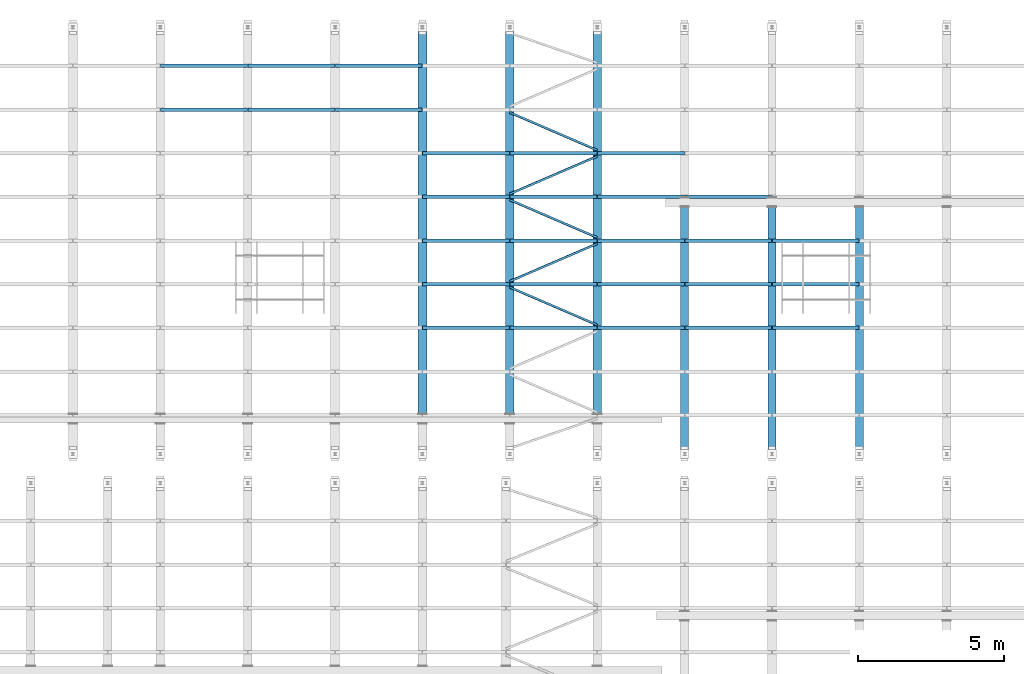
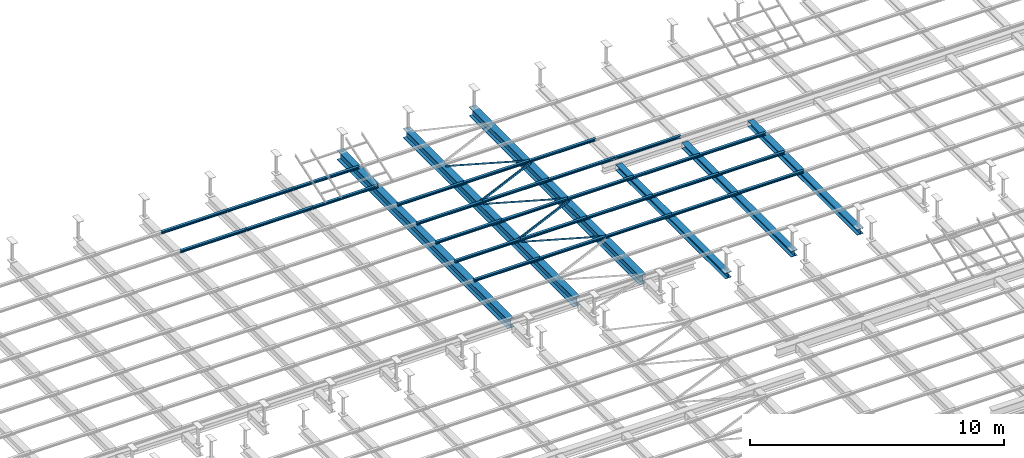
# One storey, part 80 of 139: 39 beams.
"""IFC2X3 building model written with IfcOpenShell, lengths in metres."""

import ifcopenshell
import ifcopenshell.guid

model = None  # the IFC model being written
_history = None  # IfcOwnerHistory: only IFC2X3 demands one
_inside = {}  # id of a spatial element -> (the spatial element, [elements in it])
_under = {}  # id of a project, library or spatial element -> (it, [spatial elements below it])
_declared = {}  # id of a project -> (the project, [libraries it declares])
_typed = {}  # id of a type object -> (the type object, [elements of that type])
_made_of = {}  # id of a material, layer set ... -> (it, [elements and type objects made of it])


def new_model(schema):
    """Start an empty IFC model of exactly this schema.

    Asked for "IFC4X3", IfcOpenShell would pick the latest addendum, in which some entities
    have other attributes; the version numbers below select the first issue.
    IFC2X3 requires an IfcOwnerHistory on every rooted entity: one is made here for all.
    """
    global model, _history
    if schema == "IFC4X3":
        model = ifcopenshell.file(schema_version=(4, 3, 0, 0))
    else:
        model = ifcopenshell.file(schema=schema)
    _inside.clear()
    _under.clear()
    _declared.clear()
    _typed.clear()
    _made_of.clear()
    _history = None
    if model.schema == "IFC2X3":
        org = make("IfcOrganization", Name="unknown")
        user = make(
            "IfcPersonAndOrganization",
            ThePerson=make("IfcPerson", FamilyName="unknown"),
            TheOrganization=org,
        )
        app = make(
            "IfcApplication",
            ApplicationDeveloper=org,
            Version="unknown",
            ApplicationFullName="unknown",
            ApplicationIdentifier="unknown",
        )
        _history = make(
            "IfcOwnerHistory",
            OwningUser=user,
            OwningApplication=app,
            ChangeAction="ADDED",
            CreationDate=0,
        )
    return model


def make(cls, **values):
    """One entity of the class cls with the attributes given. An attribute that is None is left unset."""
    return model.create_entity(
        cls, **{name: value for name, value in values.items() if value is not None}
    )


def entity(cls, *values):
    """Any entity or typed value of the class cls, its attributes in the order of the schema. None: left unset."""
    e = model.create_entity(cls)
    for i, value in enumerate(values):
        if value is not None:
            e[i] = value
    return e


def rooted(cls, **values):
    """An entity with a GlobalId (a new one), such as an element, a storey or a relation."""
    return make(cls, GlobalId=ifcopenshell.guid.new(), OwnerHistory=_history, **values)


def si_unit(unit_type, name, prefix=None):
    """IfcSIUnit, for example si_unit("LENGTHUNIT", "METRE", prefix="MILLI")."""
    return make("IfcSIUnit", UnitType=unit_type, Prefix=prefix, Name=name)


def converted_unit(unit_type, name, factor, base, dimensions=None, offset=None):
    """IfcConversionBasedUnit, such as the inch: factor (a typed value) times the base unit."""
    return make(
        "IfcConversionBasedUnit"
        if offset is None
        else "IfcConversionBasedUnitWithOffset",
        ConversionOffset=offset,
        Dimensions=None
        if dimensions is None
        else entity("IfcDimensionalExponents", *dimensions),
        UnitType=unit_type,
        Name=name,
        ConversionFactor=make(
            "IfcMeasureWithUnit", ValueComponent=factor, UnitComponent=base
        ),
    )


def derived_unit(unit_type, elements):
    """IfcDerivedUnit: a product of units, each with its exponent."""
    return make(
        "IfcDerivedUnit",
        Elements=[
            make("IfcDerivedUnitElement", Unit=unit, Exponent=power)
            for unit, power in elements
        ],
        UnitType=unit_type,
    )


def assignment(units):
    """IfcUnitAssignment: the units of a project."""
    return None if units is None else make("IfcUnitAssignment", Units=units)


def point(xyz):
    """IfcCartesianPoint."""
    return None if xyz is None else make("IfcCartesianPoint", Coordinates=xyz)


def direction(xyz):
    """IfcDirection."""
    return None if xyz is None else make("IfcDirection", DirectionRatios=xyz)


def frame(location, z_axis=None, x_axis=None):
    """IfcAxis2Placement3D, a coordinate frame: its origin and axes. An axis left out is left unset."""
    return make(
        "IfcAxis2Placement3D",
        Location=point(location),
        Axis=direction(z_axis),
        RefDirection=direction(x_axis),
    )


def origin():
    """The frame at (0, 0, 0) with its axes left unset."""
    return frame((0.0, 0.0, 0.0))


def place(relative_to, where):
    """IfcLocalPlacement: puts the frame where relative to a parent placement (None: the world)."""
    return make(
        "IfcLocalPlacement", PlacementRelTo=relative_to, RelativePlacement=where
    )


def context(
    kind, dimensions, precision=None, world=None, true_north=None, identifier=None
):
    """IfcGeometricRepresentationContext, for example the 3D "Model" context."""
    return make(
        "IfcGeometricRepresentationContext",
        ContextIdentifier=identifier,
        ContextType=kind,
        CoordinateSpaceDimension=dimensions,
        Precision=precision,
        WorldCoordinateSystem=world,
        TrueNorth=true_north,
    )


def subcontext(parent, identifier, kind, view, scale=None):
    """IfcGeometricRepresentationSubContext, for example "Body" below "Model"."""
    return make(
        "IfcGeometricRepresentationSubContext",
        ContextIdentifier=identifier,
        ContextType=kind,
        ParentContext=parent,
        TargetScale=scale,
        TargetView=view,
    )


def project(units=None, contexts=None):
    """IfcProject with its units and contexts."""
    return rooted(
        "IfcProject",
        Name="project",
        RepresentationContexts=contexts,
        UnitsInContext=assignment(units),
    )


def spatial(cls, under=None, at=None, **own):
    """A site, building, storey or space (cls), placed at a placement, below another one or the project."""
    s = rooted(cls, ObjectPlacement=at, **own)
    if under is not None:
        _under.setdefault(under.id(), (under, []))[1].append(s)
    return s


def polyline(points):
    """IfcPolyline through the points."""
    return make("IfcPolyline", Points=[point(p) for p in points])


def outline(outer, holes=None, kind="AREA"):
    """IfcArbitraryClosedProfileDef: a profile drawn as a closed curve; with holes, ...WithVoids."""
    if holes is None:
        return make("IfcArbitraryClosedProfileDef", ProfileType=kind, OuterCurve=outer)
    return make(
        "IfcArbitraryProfileDefWithVoids",
        ProfileType=kind,
        OuterCurve=outer,
        InnerCurves=holes,
    )


def extrude(swept, where, along, depth):
    """IfcExtrudedAreaSolid: the profile swept, set in the frame where, extruded along a direction by depth."""
    return make(
        "IfcExtrudedAreaSolid",
        SweptArea=swept,
        Position=where,
        ExtrudedDirection=direction(along),
        Depth=depth,
    )


def shape(context_of_items, identifier, shape_type, items):
    """IfcShapeRepresentation: the items that make up one representation, for example the "Body"."""
    return make(
        "IfcShapeRepresentation",
        ContextOfItems=context_of_items,
        RepresentationIdentifier=identifier,
        RepresentationType=shape_type,
        Items=items,
    )


def material(Name=None, Category=None):
    """IfcMaterial."""
    return make("IfcMaterial", Name=Name, Category=Category)


def made_of(thing, what):
    """Note that an element or type object is made of a material, layer set ...; save() writes the relation."""
    if what is not None:
        _made_of.setdefault(what.id(), (what, []))[1].append(thing)
    return thing


def element(
    cls,
    number,
    at=None,
    inside=None,
    cuts=None,
    type_object=None,
    material=None,
    context=None,
    identifier="Body",
    shape_type=None,
    held_by="IfcProductDefinitionShape",
    body=None,
    shapes=None,
    **own,
):
    """One element of the class cls, such as IfcWall. Its Tag is "e" and its number.

    at: its placement. inside: the storey or other place that contains it. cuts: it is an
    opening in that element (IfcRelVoidsElement). A single representation is given by context,
    identifier, shape_type and body (its items); several are given by shapes. held_by: the class
    of the entity that holds the representations. save() writes the other relations.
    """
    e = rooted(cls, Tag="e%d" % number, ObjectPlacement=at, **own)
    if body is not None:
        shapes = [shape(context, identifier, shape_type, body)]
    if shapes is not None:
        e.Representation = make(held_by, Representations=shapes)
    if inside is not None:
        _inside.setdefault(inside.id(), (inside, []))[1].append(e)
    if cuts is not None:
        rooted(
            "IfcRelVoidsElement", RelatingBuildingElement=cuts, RelatedOpeningElement=e
        )
    if type_object is not None:
        _typed.setdefault(type_object.id(), (type_object, []))[1].append(e)
    return made_of(e, material)


def aggregate(whole, parts):
    """IfcRelAggregates: a whole, such as a stair, and the parts it consists of."""
    return rooted("IfcRelAggregates", RelatingObject=whole, RelatedObjects=parts)


def save(model, path):
    """Write the relations noted so far, then the file.

    IfcRelAggregates (storeys below a building ...), IfcRelContainedInSpatialStructure (elements
    in a storey), IfcRelDefinesByType, IfcRelAssociatesMaterial and IfcRelDeclares: one each for
    every whole, place, type object, material and project.
    """
    for whole, parts in _under.values():
        aggregate(whole, parts)
    for where, things in _inside.values():
        rooted(
            "IfcRelContainedInSpatialStructure",
            RelatedElements=things,
            RelatingStructure=where,
        )
    for kind, things in _typed.values():
        rooted("IfcRelDefinesByType", RelatedObjects=things, RelatingType=kind)
    for what, things in _made_of.values():
        rooted("IfcRelAssociatesMaterial", RelatedObjects=things, RelatingMaterial=what)
    for by, libraries in _declared.values():
        rooted("IfcRelDeclares", RelatingContext=by, RelatedDefinitions=libraries)
    model.write(path)


model = new_model("IFC2X3")

# Units and contexts
model_context = context("Model", 3, precision=1e-05, world=origin())
body_context = subcontext(model_context, "Body", "Model", "MODEL_VIEW")
ifc_project = project(units=[si_unit("LENGTHUNIT", "METRE"), si_unit("AREAUNIT", "SQUARE_METRE"), si_unit("VOLUMEUNIT", "CUBIC_METRE"), si_unit("MASSUNIT", "GRAM", prefix="KILO"), converted_unit("PLANEANGLEUNIT", "DEGREE", entity("IfcPlaneAngleMeasure", 0.0174532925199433), si_unit("PLANEANGLEUNIT", "RADIAN"), dimensions=[0, 0, 0, 0, 0, 0, 0]), derived_unit("THERMALTRANSMITTANCEUNIT", [(si_unit("POWERUNIT", "WATT"), 1), (si_unit("THERMODYNAMICTEMPERATUREUNIT", "KELVIN"), -1), (si_unit("LENGTHUNIT", "METRE"), -2)]), derived_unit("VOLUMETRICFLOWRATEUNIT", [(si_unit("LENGTHUNIT", "METRE"), 3), (converted_unit("TIMEUNIT", "hour", entity("IfcTimeMeasure", 3600.0), si_unit("TIMEUNIT", "SECOND"), dimensions=[0, 0, 1, 0, 0, 0, 0]), -1), (si_unit("LENGTHUNIT", "METRE"), -1)])], contexts=[model_context])

# Site, building, storey
site_placement = place(None, origin())
site = spatial("IfcSite", under=ifc_project, at=site_placement, Name="TWP_Speiseverteilzentrum SBW VZ II", CompositionType="ELEMENT")
building_placement = place(site_placement, origin())
building = spatial("IfcBuilding", under=site, at=building_placement, Name="Speiseverteilzentrum SBW VZ II", CompositionType="ELEMENT")
storey_placement = place(building_placement, frame((0.0, 0.0, 7.1307)))
storey = spatial("IfcBuildingStorey", under=building, at=storey_placement, Name="Wartung_FFB", CompositionType="ELEMENT", Elevation=7.1307)

# Beams
ifc_material_1 = material(Name="S235")
beam_1_placement = place(storey_placement, frame((43.0500000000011, 72.2845015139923, -0.41), z_axis=(0.0, 0.0, 1.0), x_axis=(1.0, -2.44929359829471e-16, 0.0)))
element("IfcBeam", 1, at=beam_1_placement, inside=storey, material=ifc_material_1, Name="Stahlträger", context=body_context, shape_type="SweptSolid", body=[
    extrude(outline(polyline([(-0.15, 0.22), (-0.15, 0.199), (-0.00574999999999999, 0.199), (-0.00575000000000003, -0.199), (-0.15, -0.199), (-0.15, -0.22), (0.15, -0.22), (0.15, -0.199), (0.00574999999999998, -0.199), (0.00575000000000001, 0.199), (0.15, 0.199), (0.15, 0.22), (-0.15, 0.22)])), frame((0.0, 0.0, 0.0), z_axis=(0.0, 1.0, 0.0), x_axis=(-1.0, 0.0, 0.0)), (0.0, 0.0, 1.0), 13.4154984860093),
])
ifc_material_2 = material(Name="S235")
beam_2_placement = place(storey_placement, frame((46.0500000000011, 72.2845015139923, -0.41), z_axis=(0.0, 0.0, 1.0), x_axis=(1.0, -2.44929359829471e-16, 0.0)))
element("IfcBeam", 2, at=beam_2_placement, inside=storey, material=ifc_material_2, Name="Stahlträger", context=body_context, shape_type="SweptSolid", body=[
    extrude(outline(polyline([(-0.15, 0.22), (-0.15, 0.199), (-0.00574999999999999, 0.199), (-0.00575000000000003, -0.199), (-0.15, -0.199), (-0.15, -0.22), (0.15, -0.22), (0.15, -0.199), (0.00574999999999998, -0.199), (0.00575000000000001, 0.199), (0.15, 0.199), (0.15, 0.22), (-0.15, 0.22)])), frame((0.0, 0.0, 0.0), z_axis=(0.0, 1.0, 0.0), x_axis=(-1.0, 0.0, 0.0)), (0.0, 0.0, 1.0), 13.4154984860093),
])
ifc_material_3 = material(Name="S235")
beam_3_placement = place(storey_placement, frame((49.0500000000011, 72.2845015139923, -0.41), z_axis=(0.0, 0.0, 1.0), x_axis=(1.0, -2.44929359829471e-16, 0.0)))
element("IfcBeam", 3, at=beam_3_placement, inside=storey, material=ifc_material_3, Name="Stahlträger", context=body_context, shape_type="SweptSolid", body=[
    extrude(outline(polyline([(-0.15, 0.22), (-0.15, 0.199), (-0.00574999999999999, 0.199), (-0.00575000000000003, -0.199), (-0.15, -0.199), (-0.15, -0.22), (0.15, -0.22), (0.15, -0.199), (0.00574999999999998, -0.199), (0.00575000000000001, 0.199), (0.15, 0.199), (0.15, 0.22), (-0.15, 0.22)])), frame((0.0, 0.0, 0.0), z_axis=(0.0, 1.0, 0.0), x_axis=(-1.0, 0.0, 0.0)), (0.0, 0.0, 1.0), 13.4154984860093),
])
ifc_material_4 = material(Name="S235")
beam_4_placement = place(storey_placement, frame((52.0500000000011, 79.372433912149, -0.325), z_axis=(0.0, 0.0, 1.0), x_axis=(-1.0, 0.0, 0.0)))
element("IfcBeam", 4, at=beam_4_placement, inside=storey, material=ifc_material_4, Name="Stahlträger", context=body_context, shape_type="SweptSolid", body=[
    extrude(outline(polyline([(-0.14, 0.135), (-0.14, 0.122), (-0.00400000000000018, 0.122), (-0.00400000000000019, -0.122), (-0.14, -0.122), (-0.14, -0.135), (0.14, -0.135), (0.14, -0.122), (0.00399999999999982, -0.122), (0.00399999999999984, 0.122), (0.14, 0.122), (0.14, 0.135), (-0.14, 0.135)])), frame((0.0, 0.0, 0.0), z_axis=(0.0, 1.0, 0.0), x_axis=(-1.0, 0.0, 0.0)), (0.0, 0.0, 1.0), 8.62018125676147),
])
ifc_material_5 = material(Name="S235")
beam_5_placement = place(storey_placement, frame((55.0500000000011, 79.372433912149, -0.325), z_axis=(0.0, 0.0, 1.0), x_axis=(-1.0, 0.0, 0.0)))
element("IfcBeam", 5, at=beam_5_placement, inside=storey, material=ifc_material_5, Name="Stahlträger", context=body_context, shape_type="SweptSolid", body=[
    extrude(outline(polyline([(-0.14, 0.135), (-0.14, 0.122), (-0.00400000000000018, 0.122), (-0.00400000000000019, -0.122), (-0.14, -0.122), (-0.14, -0.135), (0.14, -0.135), (0.14, -0.122), (0.00399999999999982, -0.122), (0.00399999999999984, 0.122), (0.14, 0.122), (0.14, 0.135), (-0.14, 0.135)])), frame((0.0, 0.0, 0.0), z_axis=(0.0, 1.0, 0.0), x_axis=(-1.0, 0.0, 0.0)), (0.0, 0.0, 1.0), 8.62018125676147),
])
ifc_material_6 = material(Name="S235")
beam_6_placement = place(storey_placement, frame((58.0500000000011, 79.372433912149, -0.325), z_axis=(0.0, 0.0, 1.0), x_axis=(-1.0, 0.0, 0.0)))
element("IfcBeam", 6, at=beam_6_placement, inside=storey, material=ifc_material_6, Name="Stahlträger", context=body_context, shape_type="SweptSolid", body=[
    extrude(outline(polyline([(-0.14, 0.135), (-0.14, 0.122), (-0.00400000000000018, 0.122), (-0.00400000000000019, -0.122), (-0.14, -0.122), (-0.14, -0.135), (0.14, -0.135), (0.14, -0.122), (0.00399999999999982, -0.122), (0.00399999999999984, 0.122), (0.14, 0.122), (0.14, 0.135), (-0.14, 0.135)])), frame((0.0, 0.0, 0.0), z_axis=(0.0, 1.0, 0.0), x_axis=(-1.0, 0.0, 0.0)), (0.0, 0.0, 1.0), 8.62018125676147),
])
ifc_material_7 = material(Name="S235")
beam_7_placement = place(storey_placement, frame((34.0600000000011, 84.2261263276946, -0.133), z_axis=(0.0, 0.0, 1.0), x_axis=(0.0, -1.0, 0.0)))
element("IfcBeam", 7, at=beam_7_placement, inside=storey, material=ifc_material_7, Name="Nebenträger", context=body_context, shape_type="SweptSolid", body=[
    extrude(outline(polyline([(-0.06, 0.0570000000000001), (-0.06, 0.0490000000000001), (-0.00249999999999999, 0.0490000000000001), (-0.0025, -0.0489999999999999), (-0.06, -0.0489999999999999), (-0.06, -0.0569999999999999), (0.06, -0.0569999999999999), (0.06, -0.0489999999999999), (0.0025, -0.0489999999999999), (0.00250000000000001, 0.0490000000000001), (0.06, 0.0490000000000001), (0.06, 0.0570000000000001), (-0.06, 0.0570000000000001)])), frame((0.0, 0.0, 0.0), z_axis=(0.0, 1.0, 0.0), x_axis=(-1.0, 0.0, 0.0)), (0.0, 0.0, 1.0), 2.98),
])
ifc_material_8 = material(Name="S235")
beam_8_placement = place(storey_placement, frame((37.0600000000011, 84.2261263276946, -0.133), z_axis=(0.0, 0.0, 1.0), x_axis=(0.0, -1.0, 0.0)))
element("IfcBeam", 8, at=beam_8_placement, inside=storey, material=ifc_material_8, Name="Nebenträger", context=body_context, shape_type="SweptSolid", body=[
    extrude(outline(polyline([(-0.06, 0.0570000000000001), (-0.06, 0.0490000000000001), (-0.00249999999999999, 0.0490000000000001), (-0.0025, -0.0489999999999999), (-0.06, -0.0489999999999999), (-0.06, -0.0569999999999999), (0.06, -0.0569999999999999), (0.06, -0.0489999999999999), (0.0025, -0.0489999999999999), (0.00250000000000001, 0.0490000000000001), (0.06, 0.0490000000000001), (0.06, 0.0570000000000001), (-0.06, 0.0570000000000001)])), frame((0.0, 0.0, 0.0), z_axis=(0.0, 1.0, 0.0), x_axis=(-1.0, 0.0, 0.0)), (0.0, 0.0, 1.0), 2.98),
])
ifc_material_9 = material(Name="S235")
beam_9_placement = place(storey_placement, frame((40.0600000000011, 84.2261263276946, -0.133), z_axis=(0.0, 0.0, 1.0), x_axis=(0.0, -1.0, 0.0)))
element("IfcBeam", 9, at=beam_9_placement, inside=storey, material=ifc_material_9, Name="Nebenträger", context=body_context, shape_type="SweptSolid", body=[
    extrude(outline(polyline([(-0.06, 0.0570000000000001), (-0.06, 0.0490000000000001), (-0.00249999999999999, 0.0490000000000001), (-0.0025, -0.0489999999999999), (-0.06, -0.0489999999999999), (-0.06, -0.0569999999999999), (0.06, -0.0569999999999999), (0.06, -0.0489999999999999), (0.0025, -0.0489999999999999), (0.00250000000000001, 0.0490000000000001), (0.06, 0.0490000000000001), (0.06, 0.0570000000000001), (-0.06, 0.0570000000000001)])), frame((0.0, 0.0, 0.0), z_axis=(0.0, 1.0, 0.0), x_axis=(-1.0, 0.0, 0.0)), (0.0, 0.0, 1.0), 2.98),
])
ifc_material_10 = material(Name="S235")
beam_10_placement = place(storey_placement, frame((34.0600000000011, 82.7261263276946, -0.133), z_axis=(0.0, 0.0, 1.0), x_axis=(0.0, -1.0, 0.0)))
element("IfcBeam", 10, at=beam_10_placement, inside=storey, material=ifc_material_10, Name="Nebenträger", context=body_context, shape_type="SweptSolid", body=[
    extrude(outline(polyline([(-0.06, 0.0570000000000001), (-0.06, 0.0490000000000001), (-0.00249999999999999, 0.0490000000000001), (-0.0025, -0.0489999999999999), (-0.06, -0.0489999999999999), (-0.06, -0.0569999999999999), (0.06, -0.0569999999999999), (0.06, -0.0489999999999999), (0.0025, -0.0489999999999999), (0.00250000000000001, 0.0490000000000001), (0.06, 0.0490000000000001), (0.06, 0.0570000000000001), (-0.06, 0.0570000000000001)])), frame((0.0, 0.0, 0.0), z_axis=(0.0, 1.0, 0.0), x_axis=(-1.0, 0.0, 0.0)), (0.0, 0.0, 1.0), 2.98),
])
ifc_material_11 = material(Name="S235")
beam_11_placement = place(storey_placement, frame((37.0600000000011, 82.7261263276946, -0.133), z_axis=(0.0, 0.0, 1.0), x_axis=(0.0, -1.0, 0.0)))
element("IfcBeam", 11, at=beam_11_placement, inside=storey, material=ifc_material_11, Name="Nebenträger", context=body_context, shape_type="SweptSolid", body=[
    extrude(outline(polyline([(-0.06, 0.0570000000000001), (-0.06, 0.0490000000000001), (-0.00249999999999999, 0.0490000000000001), (-0.0025, -0.0489999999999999), (-0.06, -0.0489999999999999), (-0.06, -0.0569999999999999), (0.06, -0.0569999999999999), (0.06, -0.0489999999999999), (0.0025, -0.0489999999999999), (0.00250000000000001, 0.0490000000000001), (0.06, 0.0490000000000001), (0.06, 0.0570000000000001), (-0.06, 0.0570000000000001)])), frame((0.0, 0.0, 0.0), z_axis=(0.0, 1.0, 0.0), x_axis=(-1.0, 0.0, 0.0)), (0.0, 0.0, 1.0), 2.98),
])
ifc_material_12 = material(Name="S235")
beam_12_placement = place(storey_placement, frame((40.0600000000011, 82.7261263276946, -0.133), z_axis=(0.0, 0.0, 1.0), x_axis=(0.0, -1.0, 0.0)))
element("IfcBeam", 12, at=beam_12_placement, inside=storey, material=ifc_material_12, Name="Nebenträger", context=body_context, shape_type="SweptSolid", body=[
    extrude(outline(polyline([(-0.06, 0.0570000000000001), (-0.06, 0.0490000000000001), (-0.00249999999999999, 0.0490000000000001), (-0.0025, -0.0489999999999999), (-0.06, -0.0489999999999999), (-0.06, -0.0569999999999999), (0.06, -0.0569999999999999), (0.06, -0.0489999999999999), (0.0025, -0.0489999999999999), (0.00250000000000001, 0.0490000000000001), (0.06, 0.0490000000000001), (0.06, 0.0570000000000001), (-0.06, 0.0570000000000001)])), frame((0.0, 0.0, 0.0), z_axis=(0.0, 1.0, 0.0), x_axis=(-1.0, 0.0, 0.0)), (0.0, 0.0, 1.0), 2.98),
])
ifc_material_13 = material(Name="S235")
beam_13_placement = place(storey_placement, frame((43.0600000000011, 81.2261263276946, -0.133), z_axis=(0.0, 0.0, 1.0), x_axis=(0.0, -1.0, 0.0)))
element("IfcBeam", 13, at=beam_13_placement, inside=storey, material=ifc_material_13, Name="Nebenträger", context=body_context, shape_type="SweptSolid", body=[
    extrude(outline(polyline([(-0.06, 0.0570000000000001), (-0.06, 0.0490000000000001), (-0.00249999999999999, 0.0490000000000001), (-0.0025, -0.0489999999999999), (-0.06, -0.0489999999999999), (-0.06, -0.0569999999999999), (0.06, -0.0569999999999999), (0.06, -0.0489999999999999), (0.0025, -0.0489999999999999), (0.00250000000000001, 0.0490000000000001), (0.06, 0.0490000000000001), (0.06, 0.0570000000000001), (-0.06, 0.0570000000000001)])), frame((0.0, 0.0, 0.0), z_axis=(0.0, 1.0, 0.0), x_axis=(-1.0, 0.0, 0.0)), (0.0, 0.0, 1.0), 2.98),
])
ifc_material_14 = material(Name="S235")
beam_14_placement = place(storey_placement, frame((46.0600000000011, 81.2261263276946, -0.133), z_axis=(0.0, 0.0, 1.0), x_axis=(0.0, -1.0, 0.0)))
element("IfcBeam", 14, at=beam_14_placement, inside=storey, material=ifc_material_14, Name="Nebenträger", context=body_context, shape_type="SweptSolid", body=[
    extrude(outline(polyline([(-0.06, 0.0570000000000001), (-0.06, 0.0490000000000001), (-0.00249999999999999, 0.0490000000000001), (-0.0025, -0.0489999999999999), (-0.06, -0.0489999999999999), (-0.06, -0.0569999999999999), (0.06, -0.0569999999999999), (0.06, -0.0489999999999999), (0.0025, -0.0489999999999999), (0.00250000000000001, 0.0490000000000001), (0.06, 0.0490000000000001), (0.06, 0.0570000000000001), (-0.06, 0.0570000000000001)])), frame((0.0, 0.0, 0.0), z_axis=(0.0, 1.0, 0.0), x_axis=(-1.0, 0.0, 0.0)), (0.0, 0.0, 1.0), 2.98),
])
ifc_material_15 = material(Name="S235")
beam_15_placement = place(storey_placement, frame((49.0600000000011, 81.2261263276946, -0.133), z_axis=(0.0, 0.0, 1.0), x_axis=(0.0, -1.0, 0.0)))
element("IfcBeam", 15, at=beam_15_placement, inside=storey, material=ifc_material_15, Name="Nebenträger", context=body_context, shape_type="SweptSolid", body=[
    extrude(outline(polyline([(-0.06, 0.0570000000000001), (-0.06, 0.0490000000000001), (-0.00249999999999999, 0.0490000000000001), (-0.0025, -0.0489999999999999), (-0.06, -0.0489999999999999), (-0.06, -0.0569999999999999), (0.06, -0.0569999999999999), (0.06, -0.0489999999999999), (0.0025, -0.0489999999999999), (0.00250000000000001, 0.0490000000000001), (0.06, 0.0490000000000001), (0.06, 0.0570000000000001), (-0.06, 0.0570000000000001)])), frame((0.0, 0.0, 0.0), z_axis=(0.0, 1.0, 0.0), x_axis=(-1.0, 0.0, 0.0)), (0.0, 0.0, 1.0), 2.98),
])
ifc_material_16 = material(Name="S235")
beam_16_placement = place(storey_placement, frame((43.0600000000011, 79.7261263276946, -0.133), z_axis=(0.0, 0.0, 1.0), x_axis=(0.0, -1.0, 0.0)))
element("IfcBeam", 16, at=beam_16_placement, inside=storey, material=ifc_material_16, Name="Nebenträger", context=body_context, shape_type="SweptSolid", body=[
    extrude(outline(polyline([(-0.06, 0.0570000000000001), (-0.06, 0.0490000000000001), (-0.00249999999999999, 0.0490000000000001), (-0.0025, -0.0489999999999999), (-0.06, -0.0489999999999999), (-0.06, -0.0569999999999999), (0.06, -0.0569999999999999), (0.06, -0.0489999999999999), (0.0025, -0.0489999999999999), (0.00250000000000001, 0.0490000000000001), (0.06, 0.0490000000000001), (0.06, 0.0570000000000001), (-0.06, 0.0570000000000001)])), frame((0.0, 0.0, 0.0), z_axis=(0.0, 1.0, 0.0), x_axis=(-1.0, 0.0, 0.0)), (0.0, 0.0, 1.0), 2.98),
])
ifc_material_17 = material(Name="S235")
beam_17_placement = place(storey_placement, frame((46.0600000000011, 79.7261263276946, -0.133), z_axis=(0.0, 0.0, 1.0), x_axis=(0.0, -1.0, 0.0)))
element("IfcBeam", 17, at=beam_17_placement, inside=storey, material=ifc_material_17, Name="Nebenträger", context=body_context, shape_type="SweptSolid", body=[
    extrude(outline(polyline([(-0.06, 0.0570000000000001), (-0.06, 0.0490000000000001), (-0.00249999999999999, 0.0490000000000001), (-0.0025, -0.0489999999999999), (-0.06, -0.0489999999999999), (-0.06, -0.0569999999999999), (0.06, -0.0569999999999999), (0.06, -0.0489999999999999), (0.0025, -0.0489999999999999), (0.00250000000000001, 0.0490000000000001), (0.06, 0.0490000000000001), (0.06, 0.0570000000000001), (-0.06, 0.0570000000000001)])), frame((0.0, 0.0, 0.0), z_axis=(0.0, 1.0, 0.0), x_axis=(-1.0, 0.0, 0.0)), (0.0, 0.0, 1.0), 2.98),
])
ifc_material_18 = material(Name="S235")
beam_18_placement = place(storey_placement, frame((49.0600000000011, 79.7261263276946, -0.133), z_axis=(0.0, 0.0, 1.0), x_axis=(0.0, -1.0, 0.0)))
element("IfcBeam", 18, at=beam_18_placement, inside=storey, material=ifc_material_18, Name="Nebenträger", context=body_context, shape_type="SweptSolid", body=[
    extrude(outline(polyline([(-0.06, 0.0570000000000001), (-0.06, 0.0490000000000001), (-0.00249999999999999, 0.0490000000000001), (-0.0025, -0.0489999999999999), (-0.06, -0.0489999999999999), (-0.06, -0.0569999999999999), (0.06, -0.0569999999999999), (0.06, -0.0489999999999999), (0.0025, -0.0489999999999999), (0.00250000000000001, 0.0490000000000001), (0.06, 0.0490000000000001), (0.06, 0.0570000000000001), (-0.06, 0.0570000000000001)])), frame((0.0, 0.0, 0.0), z_axis=(0.0, 1.0, 0.0), x_axis=(-1.0, 0.0, 0.0)), (0.0, 0.0, 1.0), 2.98),
])
ifc_material_19 = material(Name="S235")
beam_19_placement = place(storey_placement, frame((52.0600000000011, 79.7261263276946, -0.133), z_axis=(0.0, 0.0, 1.0), x_axis=(0.0, -1.0, 0.0)))
element("IfcBeam", 19, at=beam_19_placement, inside=storey, material=ifc_material_19, Name="Nebenträger", context=body_context, shape_type="SweptSolid", body=[
    extrude(outline(polyline([(-0.06, 0.0570000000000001), (-0.06, 0.0490000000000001), (-0.00249999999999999, 0.0490000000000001), (-0.0025, -0.0489999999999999), (-0.06, -0.0489999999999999), (-0.06, -0.0569999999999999), (0.06, -0.0569999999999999), (0.06, -0.0489999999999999), (0.0025, -0.0489999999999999), (0.00250000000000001, 0.0490000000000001), (0.06, 0.0490000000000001), (0.06, 0.0570000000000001), (-0.06, 0.0570000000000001)])), frame((0.0, 0.0, 0.0), z_axis=(0.0, 1.0, 0.0), x_axis=(-1.0, 0.0, 0.0)), (0.0, 0.0, 1.0), 2.98),
])
ifc_material_20 = material(Name="S235")
beam_20_placement = place(storey_placement, frame((43.0600000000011, 78.2261263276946, -0.133), z_axis=(0.0, 0.0, 1.0), x_axis=(0.0, -1.0, 0.0)))
element("IfcBeam", 20, at=beam_20_placement, inside=storey, material=ifc_material_20, Name="Nebenträger", context=body_context, shape_type="SweptSolid", body=[
    extrude(outline(polyline([(-0.06, 0.0570000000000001), (-0.06, 0.0490000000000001), (-0.00249999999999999, 0.0490000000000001), (-0.0025, -0.0489999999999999), (-0.06, -0.0489999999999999), (-0.06, -0.0569999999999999), (0.06, -0.0569999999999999), (0.06, -0.0489999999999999), (0.0025, -0.0489999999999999), (0.00250000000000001, 0.0490000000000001), (0.06, 0.0490000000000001), (0.06, 0.0570000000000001), (-0.06, 0.0570000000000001)])), frame((0.0, 0.0, 0.0), z_axis=(0.0, 1.0, 0.0), x_axis=(-1.0, 0.0, 0.0)), (0.0, 0.0, 1.0), 2.98),
])
ifc_material_21 = material(Name="S235")
beam_21_placement = place(storey_placement, frame((46.0600000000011, 78.2261263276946, -0.133), z_axis=(0.0, 0.0, 1.0), x_axis=(0.0, -1.0, 0.0)))
element("IfcBeam", 21, at=beam_21_placement, inside=storey, material=ifc_material_21, Name="Nebenträger", context=body_context, shape_type="SweptSolid", body=[
    extrude(outline(polyline([(-0.06, 0.0570000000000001), (-0.06, 0.0490000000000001), (-0.00249999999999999, 0.0490000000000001), (-0.0025, -0.0489999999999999), (-0.06, -0.0489999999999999), (-0.06, -0.0569999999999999), (0.06, -0.0569999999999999), (0.06, -0.0489999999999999), (0.0025, -0.0489999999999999), (0.00250000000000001, 0.0490000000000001), (0.06, 0.0490000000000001), (0.06, 0.0570000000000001), (-0.06, 0.0570000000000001)])), frame((0.0, 0.0, 0.0), z_axis=(0.0, 1.0, 0.0), x_axis=(-1.0, 0.0, 0.0)), (0.0, 0.0, 1.0), 2.98),
])
ifc_material_22 = material(Name="S235")
beam_22_placement = place(storey_placement, frame((49.0600000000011, 78.2261263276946, -0.133), z_axis=(0.0, 0.0, 1.0), x_axis=(0.0, -1.0, 0.0)))
element("IfcBeam", 22, at=beam_22_placement, inside=storey, material=ifc_material_22, Name="Nebenträger", context=body_context, shape_type="SweptSolid", body=[
    extrude(outline(polyline([(-0.06, 0.0570000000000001), (-0.06, 0.0490000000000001), (-0.00249999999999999, 0.0490000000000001), (-0.0025, -0.0489999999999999), (-0.06, -0.0489999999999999), (-0.06, -0.0569999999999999), (0.06, -0.0569999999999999), (0.06, -0.0489999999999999), (0.0025, -0.0489999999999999), (0.00250000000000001, 0.0490000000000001), (0.06, 0.0490000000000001), (0.06, 0.0570000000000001), (-0.06, 0.0570000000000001)])), frame((0.0, 0.0, 0.0), z_axis=(0.0, 1.0, 0.0), x_axis=(-1.0, 0.0, 0.0)), (0.0, 0.0, 1.0), 2.98),
])
ifc_material_23 = material(Name="S235")
beam_23_placement = place(storey_placement, frame((52.0600000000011, 78.2261263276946, -0.133), z_axis=(0.0, 0.0, 1.0), x_axis=(0.0, -1.0, 0.0)))
element("IfcBeam", 23, at=beam_23_placement, inside=storey, material=ifc_material_23, Name="Nebenträger", context=body_context, shape_type="SweptSolid", body=[
    extrude(outline(polyline([(-0.06, 0.0570000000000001), (-0.06, 0.0490000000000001), (-0.00249999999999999, 0.0490000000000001), (-0.0025, -0.0489999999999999), (-0.06, -0.0489999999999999), (-0.06, -0.0569999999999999), (0.06, -0.0569999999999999), (0.06, -0.0489999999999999), (0.0025, -0.0489999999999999), (0.00250000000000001, 0.0490000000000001), (0.06, 0.0490000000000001), (0.06, 0.0570000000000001), (-0.06, 0.0570000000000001)])), frame((0.0, 0.0, 0.0), z_axis=(0.0, 1.0, 0.0), x_axis=(-1.0, 0.0, 0.0)), (0.0, 0.0, 1.0), 2.98),
])
ifc_material_24 = material(Name="S235")
beam_24_placement = place(storey_placement, frame((55.0600000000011, 78.2261263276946, -0.133), z_axis=(0.0, 0.0, 1.0), x_axis=(0.0, -1.0, 0.0)))
element("IfcBeam", 24, at=beam_24_placement, inside=storey, material=ifc_material_24, Name="Nebenträger", context=body_context, shape_type="SweptSolid", body=[
    extrude(outline(polyline([(-0.06, 0.0570000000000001), (-0.06, 0.0490000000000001), (-0.00249999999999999, 0.0490000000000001), (-0.0025, -0.0489999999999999), (-0.06, -0.0489999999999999), (-0.06, -0.0569999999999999), (0.06, -0.0569999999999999), (0.06, -0.0489999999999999), (0.0025, -0.0489999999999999), (0.00250000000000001, 0.0490000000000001), (0.06, 0.0490000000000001), (0.06, 0.0570000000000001), (-0.06, 0.0570000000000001)])), frame((0.0, 0.0, 0.0), z_axis=(0.0, 1.0, 0.0), x_axis=(-1.0, 0.0, 0.0)), (0.0, 0.0, 1.0), 2.98),
])
ifc_material_25 = material(Name="S235")
beam_25_placement = place(storey_placement, frame((43.0600000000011, 76.7261263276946, -0.133), z_axis=(0.0, 0.0, 1.0), x_axis=(0.0, -1.0, 0.0)))
element("IfcBeam", 25, at=beam_25_placement, inside=storey, material=ifc_material_25, Name="Nebenträger", context=body_context, shape_type="SweptSolid", body=[
    extrude(outline(polyline([(-0.06, 0.0570000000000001), (-0.06, 0.0490000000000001), (-0.00249999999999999, 0.0490000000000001), (-0.0025, -0.0489999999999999), (-0.06, -0.0489999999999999), (-0.06, -0.0569999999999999), (0.06, -0.0569999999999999), (0.06, -0.0489999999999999), (0.0025, -0.0489999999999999), (0.00250000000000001, 0.0490000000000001), (0.06, 0.0490000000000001), (0.06, 0.0570000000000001), (-0.06, 0.0570000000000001)])), frame((0.0, 0.0, 0.0), z_axis=(0.0, 1.0, 0.0), x_axis=(-1.0, 0.0, 0.0)), (0.0, 0.0, 1.0), 2.98),
])
ifc_material_26 = material(Name="S235")
beam_26_placement = place(storey_placement, frame((46.0600000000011, 76.7261263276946, -0.133), z_axis=(0.0, 0.0, 1.0), x_axis=(0.0, -1.0, 0.0)))
element("IfcBeam", 26, at=beam_26_placement, inside=storey, material=ifc_material_26, Name="Nebenträger", context=body_context, shape_type="SweptSolid", body=[
    extrude(outline(polyline([(-0.06, 0.0570000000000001), (-0.06, 0.0490000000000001), (-0.00249999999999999, 0.0490000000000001), (-0.0025, -0.0489999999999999), (-0.06, -0.0489999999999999), (-0.06, -0.0569999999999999), (0.06, -0.0569999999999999), (0.06, -0.0489999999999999), (0.0025, -0.0489999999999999), (0.00250000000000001, 0.0490000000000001), (0.06, 0.0490000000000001), (0.06, 0.0570000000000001), (-0.06, 0.0570000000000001)])), frame((0.0, 0.0, 0.0), z_axis=(0.0, 1.0, 0.0), x_axis=(-1.0, 0.0, 0.0)), (0.0, 0.0, 1.0), 2.98),
])
ifc_material_27 = material(Name="S235")
beam_27_placement = place(storey_placement, frame((49.0600000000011, 76.7261263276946, -0.133), z_axis=(0.0, 0.0, 1.0), x_axis=(0.0, -1.0, 0.0)))
element("IfcBeam", 27, at=beam_27_placement, inside=storey, material=ifc_material_27, Name="Nebenträger", context=body_context, shape_type="SweptSolid", body=[
    extrude(outline(polyline([(-0.06, 0.0570000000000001), (-0.06, 0.0490000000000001), (-0.00249999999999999, 0.0490000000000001), (-0.0025, -0.0489999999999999), (-0.06, -0.0489999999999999), (-0.06, -0.0569999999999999), (0.06, -0.0569999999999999), (0.06, -0.0489999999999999), (0.0025, -0.0489999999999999), (0.00250000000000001, 0.0490000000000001), (0.06, 0.0490000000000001), (0.06, 0.0570000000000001), (-0.06, 0.0570000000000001)])), frame((0.0, 0.0, 0.0), z_axis=(0.0, 1.0, 0.0), x_axis=(-1.0, 0.0, 0.0)), (0.0, 0.0, 1.0), 2.98),
])
ifc_material_28 = material(Name="S235")
beam_28_placement = place(storey_placement, frame((52.0600000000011, 76.7261263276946, -0.133), z_axis=(0.0, 0.0, 1.0), x_axis=(0.0, -1.0, 0.0)))
element("IfcBeam", 28, at=beam_28_placement, inside=storey, material=ifc_material_28, Name="Nebenträger", context=body_context, shape_type="SweptSolid", body=[
    extrude(outline(polyline([(-0.06, 0.0570000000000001), (-0.06, 0.0490000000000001), (-0.00249999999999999, 0.0490000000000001), (-0.0025, -0.0489999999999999), (-0.06, -0.0489999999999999), (-0.06, -0.0569999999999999), (0.06, -0.0569999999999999), (0.06, -0.0489999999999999), (0.0025, -0.0489999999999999), (0.00250000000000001, 0.0490000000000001), (0.06, 0.0490000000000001), (0.06, 0.0570000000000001), (-0.06, 0.0570000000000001)])), frame((0.0, 0.0, 0.0), z_axis=(0.0, 1.0, 0.0), x_axis=(-1.0, 0.0, 0.0)), (0.0, 0.0, 1.0), 2.98),
])
ifc_material_29 = material(Name="S235")
beam_29_placement = place(storey_placement, frame((55.0600000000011, 76.7261263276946, -0.133), z_axis=(0.0, 0.0, 1.0), x_axis=(0.0, -1.0, 0.0)))
element("IfcBeam", 29, at=beam_29_placement, inside=storey, material=ifc_material_29, Name="Nebenträger", context=body_context, shape_type="SweptSolid", body=[
    extrude(outline(polyline([(-0.06, 0.0570000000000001), (-0.06, 0.0490000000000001), (-0.00249999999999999, 0.0490000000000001), (-0.0025, -0.0489999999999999), (-0.06, -0.0489999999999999), (-0.06, -0.0569999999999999), (0.06, -0.0569999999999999), (0.06, -0.0489999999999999), (0.0025, -0.0489999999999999), (0.00250000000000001, 0.0490000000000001), (0.06, 0.0490000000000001), (0.06, 0.0570000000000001), (-0.06, 0.0570000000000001)])), frame((0.0, 0.0, 0.0), z_axis=(0.0, 1.0, 0.0), x_axis=(-1.0, 0.0, 0.0)), (0.0, 0.0, 1.0), 2.98),
])
ifc_material_30 = material(Name="S235")
beam_30_placement = place(storey_placement, frame((43.0600000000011, 75.2261263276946, -0.133), z_axis=(0.0, 0.0, 1.0), x_axis=(0.0, -1.0, 0.0)))
element("IfcBeam", 30, at=beam_30_placement, inside=storey, material=ifc_material_30, Name="Nebenträger", context=body_context, shape_type="SweptSolid", body=[
    extrude(outline(polyline([(-0.06, 0.0570000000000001), (-0.06, 0.0490000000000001), (-0.00249999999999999, 0.0490000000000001), (-0.0025, -0.0489999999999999), (-0.06, -0.0489999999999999), (-0.06, -0.0569999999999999), (0.06, -0.0569999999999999), (0.06, -0.0489999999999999), (0.0025, -0.0489999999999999), (0.00250000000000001, 0.0490000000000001), (0.06, 0.0490000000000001), (0.06, 0.0570000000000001), (-0.06, 0.0570000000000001)])), frame((0.0, 0.0, 0.0), z_axis=(0.0, 1.0, 0.0), x_axis=(-1.0, 0.0, 0.0)), (0.0, 0.0, 1.0), 2.98),
])
ifc_material_31 = material(Name="S235")
beam_31_placement = place(storey_placement, frame((46.0600000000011, 75.2261263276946, -0.133), z_axis=(0.0, 0.0, 1.0), x_axis=(0.0, -1.0, 0.0)))
element("IfcBeam", 31, at=beam_31_placement, inside=storey, material=ifc_material_31, Name="Nebenträger", context=body_context, shape_type="SweptSolid", body=[
    extrude(outline(polyline([(-0.06, 0.0570000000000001), (-0.06, 0.0490000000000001), (-0.00249999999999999, 0.0490000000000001), (-0.0025, -0.0489999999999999), (-0.06, -0.0489999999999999), (-0.06, -0.0569999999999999), (0.06, -0.0569999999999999), (0.06, -0.0489999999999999), (0.0025, -0.0489999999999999), (0.00250000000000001, 0.0490000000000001), (0.06, 0.0490000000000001), (0.06, 0.0570000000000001), (-0.06, 0.0570000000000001)])), frame((0.0, 0.0, 0.0), z_axis=(0.0, 1.0, 0.0), x_axis=(-1.0, 0.0, 0.0)), (0.0, 0.0, 1.0), 2.98),
])
ifc_material_32 = material(Name="S235")
beam_32_placement = place(storey_placement, frame((49.0600000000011, 75.2261263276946, -0.133), z_axis=(0.0, 0.0, 1.0), x_axis=(0.0, -1.0, 0.0)))
element("IfcBeam", 32, at=beam_32_placement, inside=storey, material=ifc_material_32, Name="Nebenträger", context=body_context, shape_type="SweptSolid", body=[
    extrude(outline(polyline([(-0.06, 0.0570000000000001), (-0.06, 0.0490000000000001), (-0.00249999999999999, 0.0490000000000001), (-0.0025, -0.0489999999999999), (-0.06, -0.0489999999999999), (-0.06, -0.0569999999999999), (0.06, -0.0569999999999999), (0.06, -0.0489999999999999), (0.0025, -0.0489999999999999), (0.00250000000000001, 0.0490000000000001), (0.06, 0.0490000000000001), (0.06, 0.0570000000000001), (-0.06, 0.0570000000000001)])), frame((0.0, 0.0, 0.0), z_axis=(0.0, 1.0, 0.0), x_axis=(-1.0, 0.0, 0.0)), (0.0, 0.0, 1.0), 2.98),
])
ifc_material_33 = material(Name="S235")
beam_33_placement = place(storey_placement, frame((52.0600000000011, 75.2261263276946, -0.133), z_axis=(0.0, 0.0, 1.0), x_axis=(0.0, -1.0, 0.0)))
element("IfcBeam", 33, at=beam_33_placement, inside=storey, material=ifc_material_33, Name="Nebenträger", context=body_context, shape_type="SweptSolid", body=[
    extrude(outline(polyline([(-0.06, 0.0570000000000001), (-0.06, 0.0490000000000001), (-0.00249999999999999, 0.0490000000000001), (-0.0025, -0.0489999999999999), (-0.06, -0.0489999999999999), (-0.06, -0.0569999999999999), (0.06, -0.0569999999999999), (0.06, -0.0489999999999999), (0.0025, -0.0489999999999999), (0.00250000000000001, 0.0490000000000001), (0.06, 0.0490000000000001), (0.06, 0.0570000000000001), (-0.06, 0.0570000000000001)])), frame((0.0, 0.0, 0.0), z_axis=(0.0, 1.0, 0.0), x_axis=(-1.0, 0.0, 0.0)), (0.0, 0.0, 1.0), 2.98),
])
ifc_material_34 = material(Name="S235")
beam_34_placement = place(storey_placement, frame((55.0600000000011, 75.2261263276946, -0.133), z_axis=(0.0, 0.0, 1.0), x_axis=(0.0, -1.0, 0.0)))
element("IfcBeam", 34, at=beam_34_placement, inside=storey, material=ifc_material_34, Name="Nebenträger", context=body_context, shape_type="SweptSolid", body=[
    extrude(outline(polyline([(-0.06, 0.0570000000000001), (-0.06, 0.0490000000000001), (-0.00249999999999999, 0.0490000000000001), (-0.0025, -0.0489999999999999), (-0.06, -0.0489999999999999), (-0.06, -0.0569999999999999), (0.06, -0.0569999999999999), (0.06, -0.0489999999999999), (0.0025, -0.0489999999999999), (0.00250000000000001, 0.0490000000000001), (0.06, 0.0490000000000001), (0.06, 0.0570000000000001), (-0.06, 0.0570000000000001)])), frame((0.0, 0.0, 0.0), z_axis=(0.0, 1.0, 0.0), x_axis=(-1.0, 0.0, 0.0)), (0.0, 0.0, 1.0), 2.98),
])
ifc_material_35 = material(Name="S235")
beam_35_placement = place(storey_placement, frame((46.0406913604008, 76.607733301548, -0.167052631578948), z_axis=(0.0, 0.0, 1.0), x_axis=(-0.395932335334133, -0.918279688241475, 0.0)))
element("IfcBeam", 35, at=beam_35_placement, inside=storey, material=ifc_material_35, Name="Kreuzverband", context=body_context, shape_type="SweptSolid", body=[
    extrude(outline(polyline([(0.0570526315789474, -0.0229473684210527), (0.0570526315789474, -0.0149473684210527), (-0.0149473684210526, -0.0149473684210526), (-0.0149473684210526, 0.0570526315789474), (-0.0229473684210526, 0.0570526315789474), (-0.0229473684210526, -0.0229473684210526), (0.0570526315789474, -0.0229473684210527)])), frame((0.0, 0.0, 0.0), z_axis=(0.0, 1.00000000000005, 0.0), x_axis=(-1.0, 0.0, 0.0)), (0.0, 0.0, 1.0), 3.27000000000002),
])
ifc_material_36 = material(Name="S235")
beam_36_placement = place(storey_placement, frame((46.0406913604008, 76.8445193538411, -0.167052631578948), z_axis=(0.0, 0.0, 1.0), x_axis=(0.395932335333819, -0.91827968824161, 0.0)))
element("IfcBeam", 36, at=beam_36_placement, inside=storey, material=ifc_material_36, Name="Kreuzverband", context=body_context, shape_type="SweptSolid", body=[
    extrude(outline(polyline([(0.0229473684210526, -0.0229473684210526), (0.0229473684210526, 0.0570526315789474), (0.0149473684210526, 0.0570526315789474), (0.0149473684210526, -0.0149473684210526), (-0.0570526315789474, -0.0149473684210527), (-0.0570526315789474, -0.0229473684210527), (0.0229473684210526, -0.0229473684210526)])), frame((0.0, 0.0, 0.0), z_axis=(0.0, 0.999999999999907, 0.0), x_axis=(-1.0, 0.0, 0.0)), (0.0, 0.0, 1.0), 3.27000000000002),
])
ifc_material_37 = material(Name="S235")
beam_37_placement = place(storey_placement, frame((46.0406913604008, 79.607733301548, -0.167052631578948), z_axis=(0.0, 0.0, 1.0), x_axis=(-0.395932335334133, -0.918279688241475, 0.0)))
element("IfcBeam", 37, at=beam_37_placement, inside=storey, material=ifc_material_37, Name="Kreuzverband", context=body_context, shape_type="SweptSolid", body=[
    extrude(outline(polyline([(0.0570526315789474, -0.0229473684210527), (0.0570526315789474, -0.0149473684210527), (-0.0149473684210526, -0.0149473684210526), (-0.0149473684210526, 0.0570526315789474), (-0.0229473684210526, 0.0570526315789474), (-0.0229473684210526, -0.0229473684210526), (0.0570526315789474, -0.0229473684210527)])), frame((0.0, 0.0, 0.0), z_axis=(0.0, 1.00000000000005, 0.0), x_axis=(-1.0, 0.0, 0.0)), (0.0, 0.0, 1.0), 3.27000000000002),
])
ifc_material_38 = material(Name="S235")
beam_38_placement = place(storey_placement, frame((46.0406913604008, 79.8445193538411, -0.167052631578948), z_axis=(0.0, 0.0, 1.0), x_axis=(0.395932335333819, -0.91827968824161, 0.0)))
element("IfcBeam", 38, at=beam_38_placement, inside=storey, material=ifc_material_38, Name="Kreuzverband", context=body_context, shape_type="SweptSolid", body=[
    extrude(outline(polyline([(0.0229473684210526, -0.0229473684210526), (0.0229473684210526, 0.0570526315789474), (0.0149473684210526, 0.0570526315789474), (0.0149473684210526, -0.0149473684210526), (-0.0570526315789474, -0.0149473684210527), (-0.0570526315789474, -0.0229473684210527), (0.0229473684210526, -0.0229473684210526)])), frame((0.0, 0.0, 0.0), z_axis=(0.0, 0.999999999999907, 0.0), x_axis=(-1.0, 0.0, 0.0)), (0.0, 0.0, 1.0), 3.27000000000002),
])
ifc_material_39 = material(Name="S235")
beam_39_placement = place(storey_placement, frame((46.0406913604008, 82.607733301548, -0.167052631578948), z_axis=(0.0, 0.0, 1.0), x_axis=(-0.395932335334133, -0.918279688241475, 0.0)))
element("IfcBeam", 39, at=beam_39_placement, inside=storey, material=ifc_material_39, Name="Kreuzverband", context=body_context, shape_type="SweptSolid", body=[
    extrude(outline(polyline([(0.0570526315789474, -0.0229473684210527), (0.0570526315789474, -0.0149473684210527), (-0.0149473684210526, -0.0149473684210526), (-0.0149473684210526, 0.0570526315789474), (-0.0229473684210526, 0.0570526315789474), (-0.0229473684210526, -0.0229473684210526), (0.0570526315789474, -0.0229473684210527)])), frame((0.0, 0.0, 0.0), z_axis=(0.0, 1.00000000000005, 0.0), x_axis=(-1.0, 0.0, 0.0)), (0.0, 0.0, 1.0), 3.27000000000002),
])

save(model, "model.ifc")
